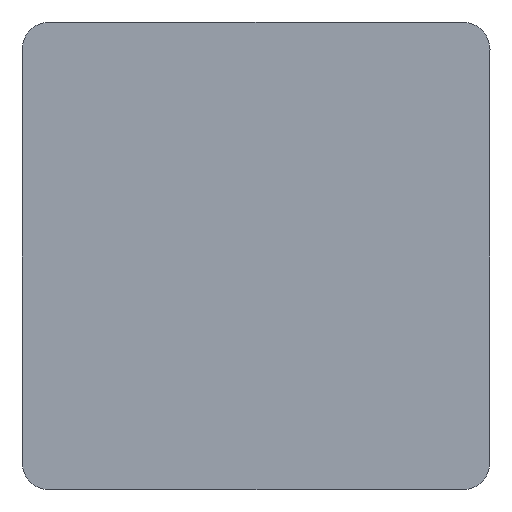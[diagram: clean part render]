
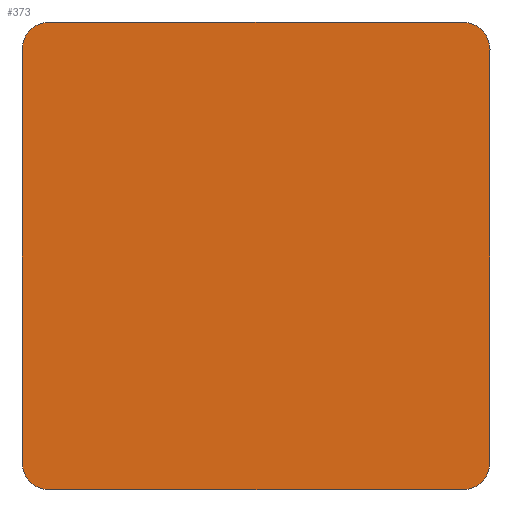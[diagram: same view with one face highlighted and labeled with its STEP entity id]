
A CAD part, front view. The second image highlights one B-rep face of the part: STEP entity #373.
In plain terms, the highlighted planar face has unit normal (0, -1, 0).
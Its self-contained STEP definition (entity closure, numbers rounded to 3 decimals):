
#3 = CARTESIAN_POINT ( 'NONE',  ( -5.925, 0., -6.725 ) ) ;
#5 = AXIS2_PLACEMENT_3D ( 'NONE', #119, #129, #130 ) ;
#17 = CARTESIAN_POINT ( 'NONE',  ( -6.725, 0., 6.725 ) ) ;
#20 = VECTOR ( 'NONE', #1196, 1000. ) ;
#30 = VERTEX_POINT ( 'NONE', #599 ) ;
#51 = CARTESIAN_POINT ( 'NONE',  ( -5.925, 0., 5.925 ) ) ;
#55 = DIRECTION ( 'NONE',  ( 0., -1., 0. ) ) ;
#58 = DIRECTION ( 'NONE',  ( 0., 0., 1. ) ) ;
#90 = DIRECTION ( 'NONE',  ( 1., 0., 0. ) ) ;
#113 = PLANE ( 'NONE',  #5 ) ;
#119 = CARTESIAN_POINT ( 'NONE',  ( 0., 0., 0. ) ) ;
#129 = DIRECTION ( 'NONE',  ( 0., 1., 0. ) ) ;
#130 = DIRECTION ( 'NONE',  ( 0., 0., 1. ) ) ;
#158 = VERTEX_POINT ( 'NONE', #453 ) ;
#192 = ORIENTED_EDGE ( 'NONE', *, *, #798, .F. ) ;
#205 = CARTESIAN_POINT ( 'NONE',  ( 5.925, 0., 5.925 ) ) ;
#251 = CARTESIAN_POINT ( 'NONE',  ( -6.725, 0., -6.725 ) ) ;
#267 = VERTEX_POINT ( 'NONE', #876 ) ;
#278 = DIRECTION ( 'NONE',  ( 0., 0., 1. ) ) ;
#320 = CIRCLE ( 'NONE', #909, 0.8 ) ;
#348 = DIRECTION ( 'NONE',  ( -1., 0., 0. ) ) ;
#350 = EDGE_CURVE ( 'NONE', #158, #723, #320, .T. ) ;
#373 = ADVANCED_FACE ( 'NONE', ( #525 ), #113, .F. ) ;
#377 = DIRECTION ( 'NONE',  ( 0., -1., 0. ) ) ;
#379 = CARTESIAN_POINT ( 'NONE',  ( 6.725, 0., 5.925 ) ) ;
#396 = AXIS2_PLACEMENT_3D ( 'NONE', #1060, #1062, #1067 ) ;
#409 = ORIENTED_EDGE ( 'NONE', *, *, #350, .T. ) ;
#426 = AXIS2_PLACEMENT_3D ( 'NONE', #804, #754, #655 ) ;
#453 = CARTESIAN_POINT ( 'NONE',  ( -5.925, 0., 6.725 ) ) ;
#481 = CARTESIAN_POINT ( 'NONE',  ( 6.725, 0., -6.725 ) ) ;
#525 = FACE_OUTER_BOUND ( 'NONE', #704, .T. ) ;
#538 = AXIS2_PLACEMENT_3D ( 'NONE', #205, #377, #278 ) ;
#547 = ORIENTED_EDGE ( 'NONE', *, *, #1228, .T. ) ;
#579 = LINE ( 'NONE', #251, #1170 ) ;
#599 = CARTESIAN_POINT ( 'NONE',  ( -6.725, 0., -5.925 ) ) ;
#636 = DIRECTION ( 'NONE',  ( 0., 0., -1. ) ) ;
#655 = DIRECTION ( 'NONE',  ( 0., 0., 1. ) ) ;
#703 = CIRCLE ( 'NONE', #426, 0.8 ) ;
#704 = EDGE_LOOP ( 'NONE', ( #1242, #840, #192, #970, #1240, #547, #857, #409 ) ) ;
#714 = EDGE_CURVE ( 'NONE', #30, #956, #771, .T. ) ;
#723 = VERTEX_POINT ( 'NONE', #1053 ) ;
#746 = VERTEX_POINT ( 'NONE', #1148 ) ;
#754 = DIRECTION ( 'NONE',  ( 0., -1., 0. ) ) ;
#771 = CIRCLE ( 'NONE', #396, 0.8 ) ;
#791 = EDGE_CURVE ( 'NONE', #158, #1088, #959, .T. ) ;
#798 = EDGE_CURVE ( 'NONE', #267, #956, #579, .T. ) ;
#804 = CARTESIAN_POINT ( 'NONE',  ( 5.925, 0., -5.925 ) ) ;
#815 = VERTEX_POINT ( 'NONE', #379 ) ;
#840 = ORIENTED_EDGE ( 'NONE', *, *, #714, .T. ) ;
#857 = ORIENTED_EDGE ( 'NONE', *, *, #791, .F. ) ;
#876 = CARTESIAN_POINT ( 'NONE',  ( 5.925, 0., -6.725 ) ) ;
#909 = AXIS2_PLACEMENT_3D ( 'NONE', #51, #55, #58 ) ;
#945 = LINE ( 'NONE', #481, #1164 ) ;
#949 = EDGE_CURVE ( 'NONE', #30, #723, #1105, .T. ) ;
#956 = VERTEX_POINT ( 'NONE', #3 ) ;
#959 = LINE ( 'NONE', #17, #976 ) ;
#970 = ORIENTED_EDGE ( 'NONE', *, *, #997, .T. ) ;
#976 = VECTOR ( 'NONE', #90, 1000. ) ;
#997 = EDGE_CURVE ( 'NONE', #267, #746, #703, .T. ) ;
#1000 = CIRCLE ( 'NONE', #538, 0.8 ) ;
#1043 = EDGE_CURVE ( 'NONE', #815, #746, #945, .T. ) ;
#1053 = CARTESIAN_POINT ( 'NONE',  ( -6.725, 0., 5.925 ) ) ;
#1060 = CARTESIAN_POINT ( 'NONE',  ( -5.925, 0., -5.925 ) ) ;
#1062 = DIRECTION ( 'NONE',  ( 0., -1., 0. ) ) ;
#1067 = DIRECTION ( 'NONE',  ( 0., 0., 1. ) ) ;
#1088 = VERTEX_POINT ( 'NONE', #1224 ) ;
#1105 = LINE ( 'NONE', #1222, #20 ) ;
#1148 = CARTESIAN_POINT ( 'NONE',  ( 6.725, 0., -5.925 ) ) ;
#1164 = VECTOR ( 'NONE', #636, 1000. ) ;
#1170 = VECTOR ( 'NONE', #348, 1000. ) ;
#1196 = DIRECTION ( 'NONE',  ( 0., 0., 1. ) ) ;
#1222 = CARTESIAN_POINT ( 'NONE',  ( -6.725, 0., -6.725 ) ) ;
#1224 = CARTESIAN_POINT ( 'NONE',  ( 5.925, 0., 6.725 ) ) ;
#1228 = EDGE_CURVE ( 'NONE', #815, #1088, #1000, .T. ) ;
#1240 = ORIENTED_EDGE ( 'NONE', *, *, #1043, .F. ) ;
#1242 = ORIENTED_EDGE ( 'NONE', *, *, #949, .F. ) ;
